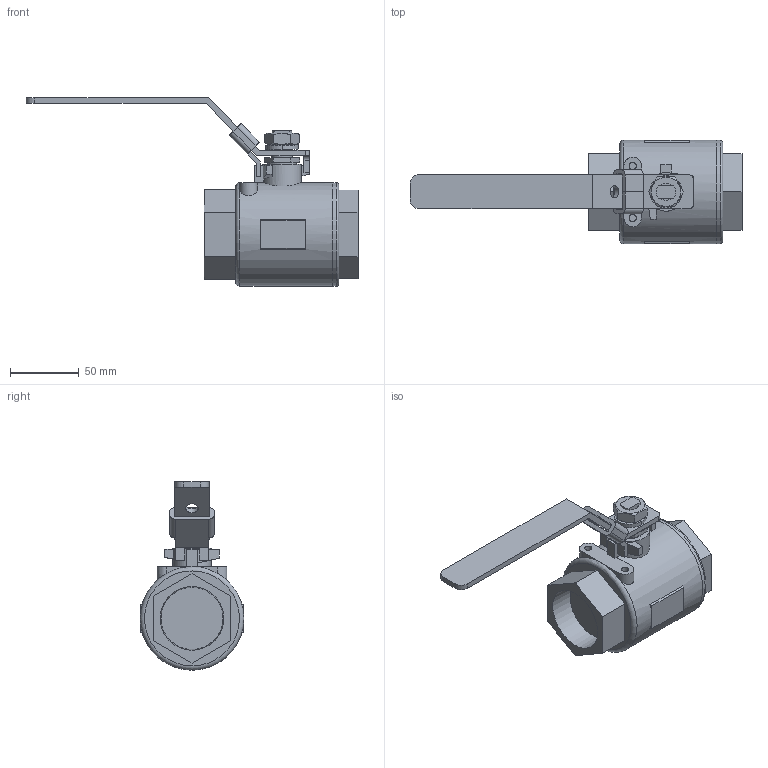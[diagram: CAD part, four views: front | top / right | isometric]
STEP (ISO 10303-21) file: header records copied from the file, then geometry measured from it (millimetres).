
FILE_DESCRIPTION((' '),'2;1');
FILE_NAME('N:\Technical Support\Private\Jomar Valve CAD\Ball Valves\Brass\1.5 T-SS-1001N (100-967) FusionCopy.stp.step','2016-04-29T16:16:05',(' '),(' '),' ','ACIS',' ');
FILE_SCHEMA(('CONFIG_CONTROL_DESIGN'));
Length unit declared in the file: inch
Products named in the file (9): N:\Technical Support\Private\Jomar Valve CAD\Ball Valves\Brass\1.5 T-SS-1001N (100-967) FusionCopy.stp.step; Body1; Body2; Body3; Body4; Body5; Body6; Body7; Body8
Assembly tree (8 placements, depth 2):
  N:\Technical Support\Private\Jomar Valve CAD\Ball Valves\Brass\1.5 T-SS-1001N (100-967) FusionCopy.stp.step
    Body1
    Body2
    Body3
    Body4
    Body5
    Body6
    Body7
    Body8
Bounding box: 241.67 x 75.44 x 137.17 mm (x, y, z)
Volume: 426161.8 mm3; surface area: 72535.1 mm2
Topology: 8 solids, 8 shells, 170 faces, 415 edges, 270 vertices
Faces by surface type: plane 106, cylinder 30, bspline 21, cone 11, torus 2
Full cylindrical faces by diameter (mm): 5.207 x2, 8.966 x1, 12.344 x1, 14.986 x1, 15.367 x1, 20.701 x1, 28.042 x1, 75.438 x2
Entity records: 6172 total; most frequent: CARTESIAN_POINT 1015, DIRECTION 799, ORIENTED_EDGE 786, EDGE_CURVE 393, VECTOR 287, LINE 287, VERTEX_POINT 264, AXIS2_PLACEMENT_3D 256
